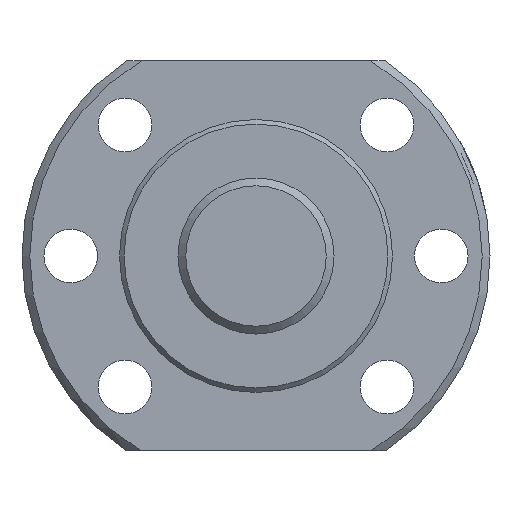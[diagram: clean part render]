
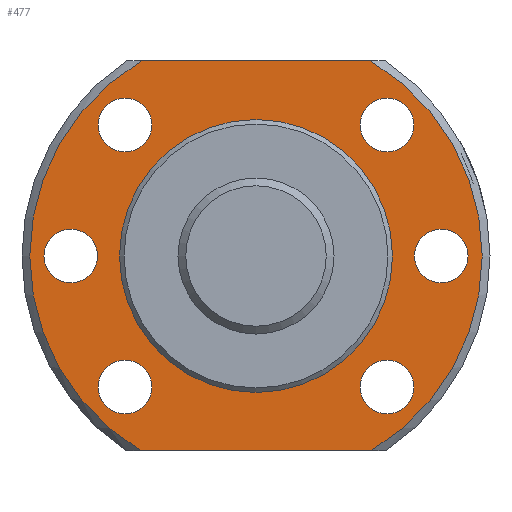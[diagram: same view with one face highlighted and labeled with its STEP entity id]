
A CAD part, left-side view. The second image highlights one B-rep face of the part: STEP entity #477.
In plain terms, the highlighted planar face has unit normal (-1, 0, 0).
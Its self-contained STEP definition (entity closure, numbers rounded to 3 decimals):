
#34=PLANE('',#557);
#61=CIRCLE('',#527,23.2);
#79=CIRCLE('',#556,23.2);
#80=CIRCLE('',#558,14.);
#81=CIRCLE('',#559,2.75);
#82=CIRCLE('',#560,2.75);
#83=CIRCLE('',#561,2.75);
#84=CIRCLE('',#562,2.75);
#85=CIRCLE('',#563,2.75);
#86=CIRCLE('',#564,2.75);
#144=ORIENTED_EDGE('',*,*,#237,.T.);
#145=ORIENTED_EDGE('',*,*,#238,.T.);
#146=ORIENTED_EDGE('',*,*,#239,.F.);
#147=ORIENTED_EDGE('',*,*,#235,.F.);
#148=ORIENTED_EDGE('',*,*,#240,.F.);
#149=ORIENTED_EDGE('',*,*,#208,.F.);
#150=ORIENTED_EDGE('',*,*,#241,.T.);
#151=ORIENTED_EDGE('',*,*,#242,.T.);
#152=ORIENTED_EDGE('',*,*,#243,.T.);
#153=ORIENTED_EDGE('',*,*,#244,.T.);
#154=ORIENTED_EDGE('',*,*,#245,.T.);
#208=EDGE_CURVE('',#259,#260,#61,.T.);
#235=EDGE_CURVE('',#282,#283,#79,.T.);
#237=EDGE_CURVE('',#284,#284,#80,.T.);
#238=EDGE_CURVE('',#285,#285,#81,.F.);
#239=EDGE_CURVE('',#283,#259,#303,.T.);
#240=EDGE_CURVE('',#260,#282,#304,.T.);
#241=EDGE_CURVE('',#286,#286,#82,.T.);
#242=EDGE_CURVE('',#287,#287,#83,.T.);
#243=EDGE_CURVE('',#288,#288,#84,.T.);
#244=EDGE_CURVE('',#289,#289,#85,.T.);
#245=EDGE_CURVE('',#290,#290,#86,.T.);
#259=VERTEX_POINT('',#777);
#260=VERTEX_POINT('',#779);
#282=VERTEX_POINT('',#860);
#283=VERTEX_POINT('',#862);
#284=VERTEX_POINT('',#869);
#285=VERTEX_POINT('',#871);
#286=VERTEX_POINT('',#875);
#287=VERTEX_POINT('',#877);
#288=VERTEX_POINT('',#879);
#289=VERTEX_POINT('',#881);
#290=VERTEX_POINT('',#883);
#303=LINE('',#872,#311);
#304=LINE('',#873,#312);
#311=VECTOR('',#676,1000.);
#312=VECTOR('',#677,1000.);
#343=EDGE_LOOP('',(#144));
#344=EDGE_LOOP('',(#145));
#345=EDGE_LOOP('',(#146,#147,#148,#149));
#346=EDGE_LOOP('',(#150));
#347=EDGE_LOOP('',(#151));
#348=EDGE_LOOP('',(#152));
#349=EDGE_LOOP('',(#153));
#350=EDGE_LOOP('',(#154));
#411=FACE_BOUND('',#343,.T.);
#412=FACE_BOUND('',#344,.T.);
#413=FACE_BOUND('',#345,.T.);
#414=FACE_BOUND('',#346,.T.);
#415=FACE_BOUND('',#347,.T.);
#416=FACE_BOUND('',#348,.T.);
#417=FACE_BOUND('',#349,.T.);
#418=FACE_BOUND('',#350,.T.);
#477=ADVANCED_FACE('',(#411,#412,#413,#414,#415,#416,#417,#418),#34,.T.);
#527=AXIS2_PLACEMENT_3D('',#778,#606,#607);
#556=AXIS2_PLACEMENT_3D('',#861,#668,#669);
#557=AXIS2_PLACEMENT_3D('',#867,#670,#671);
#558=AXIS2_PLACEMENT_3D('',#868,#672,#673);
#559=AXIS2_PLACEMENT_3D('',#870,#674,#675);
#560=AXIS2_PLACEMENT_3D('',#874,#678,#679);
#561=AXIS2_PLACEMENT_3D('',#876,#680,#681);
#562=AXIS2_PLACEMENT_3D('',#878,#682,#683);
#563=AXIS2_PLACEMENT_3D('',#880,#684,#685);
#564=AXIS2_PLACEMENT_3D('',#882,#686,#687);
#606=DIRECTION('',(1.,0.,0.));
#607=DIRECTION('',(0.,0.,-1.));
#668=DIRECTION('',(1.,0.,0.));
#669=DIRECTION('',(0.,0.,-1.));
#670=DIRECTION('',(-1.,0.,0.));
#671=DIRECTION('',(0.,0.,1.));
#672=DIRECTION('',(1.,0.,0.));
#673=DIRECTION('',(0.,0.,-1.));
#674=DIRECTION('',(-1.,0.,0.));
#675=DIRECTION('',(0.,0.,1.));
#676=DIRECTION('',(0.,-1.,0.));
#677=DIRECTION('',(0.,1.,0.));
#678=DIRECTION('',(1.,0.,0.));
#679=DIRECTION('',(0.,0.,-1.));
#680=DIRECTION('',(1.,0.,0.));
#681=DIRECTION('',(0.,0.,-1.));
#682=DIRECTION('',(1.,0.,0.));
#683=DIRECTION('',(0.,0.,-1.));
#684=DIRECTION('',(1.,0.,0.));
#685=DIRECTION('',(0.,0.,-1.));
#686=DIRECTION('',(1.,0.,0.));
#687=DIRECTION('',(0.,0.,-1.));
#777=CARTESIAN_POINT('',(5.,-11.758,20.));
#778=CARTESIAN_POINT('',(5.,0.,0.));
#779=CARTESIAN_POINT('',(5.,-11.758,-20.));
#860=CARTESIAN_POINT('',(5.,11.758,-20.));
#861=CARTESIAN_POINT('',(5.,0.,0.));
#862=CARTESIAN_POINT('',(5.,11.758,20.));
#867=CARTESIAN_POINT('',(5.,23.2,0.));
#868=CARTESIAN_POINT('',(5.,0.,0.));
#869=CARTESIAN_POINT('',(5.,0.,-14.));
#870=CARTESIAN_POINT('',(5.,19.,0.));
#871=CARTESIAN_POINT('',(5.,19.,2.75));
#872=CARTESIAN_POINT('',(5.,23.2,20.));
#873=CARTESIAN_POINT('',(5.,23.2,-20.));
#874=CARTESIAN_POINT('',(5.,-13.435,-13.435));
#875=CARTESIAN_POINT('',(5.,-13.435,-16.185));
#876=CARTESIAN_POINT('',(5.,13.435,13.435));
#877=CARTESIAN_POINT('',(5.,13.435,10.685));
#878=CARTESIAN_POINT('',(5.,-13.435,13.435));
#879=CARTESIAN_POINT('',(5.,-13.435,10.685));
#880=CARTESIAN_POINT('',(5.,13.435,-13.435));
#881=CARTESIAN_POINT('',(5.,13.435,-16.185));
#882=CARTESIAN_POINT('',(5.,-19.,0.));
#883=CARTESIAN_POINT('',(5.,-19.,-2.75));
